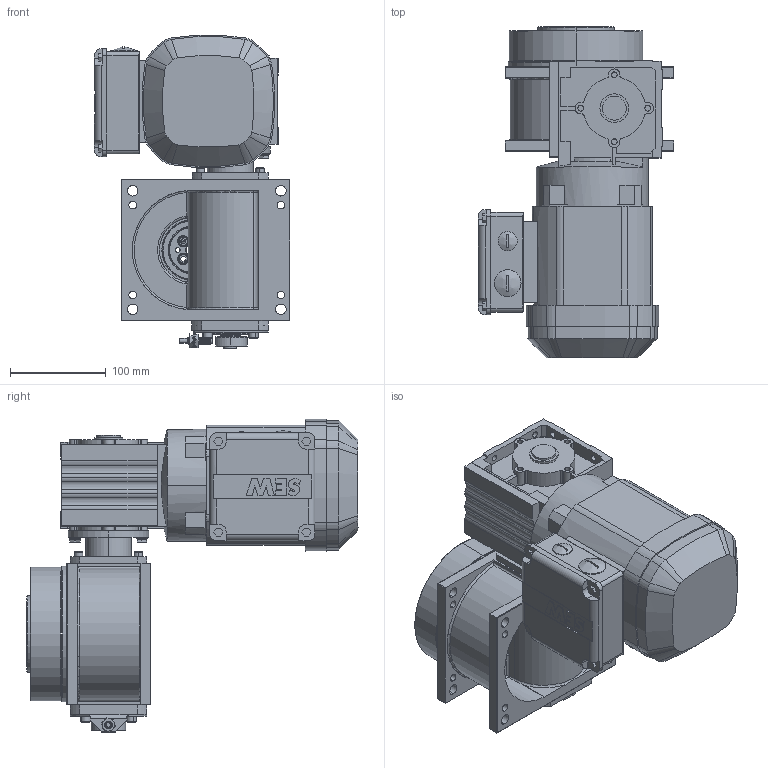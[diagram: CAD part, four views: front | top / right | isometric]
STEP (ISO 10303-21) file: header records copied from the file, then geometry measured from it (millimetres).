
FILE_DESCRIPTION (( 'STEP AP214' ), '1' );
FILE_NAME ('M140_SEW_WA20DRS71S4_E2.STEP', '2021-01-22T15:28:46', ( '' ), ( '' ), 'SwSTEP 2.0', 'SolidWorks 2020', '' );
FILE_SCHEMA (( 'AUTOMOTIVE_DESIGN' ));
Length unit declared in the file: millimetre
Products named in the file (1): M140_SEW_WA20DRS71S4_E2
Bounding box: 204 x 347.2 x 327.89 mm (x, y, z)
Surface area: 415051.4 mm2 (no closed solid volume)
Topology: 0 solids, 49 shells, 1127 faces, 3476 edges, 2315 vertices
Faces by surface type: plane 511, cylinder 407, cone 100, bspline 64, torus 45
Entity records: 57769 total; most frequent: CARTESIAN_POINT 14997, DIRECTION 6285, ORIENTED_EDGE 6025, EDGE_CURVE 3449, VERTEX_POINT 2315, AXIS2_PLACEMENT_3D 2204, LINE 1877, VECTOR 1877
